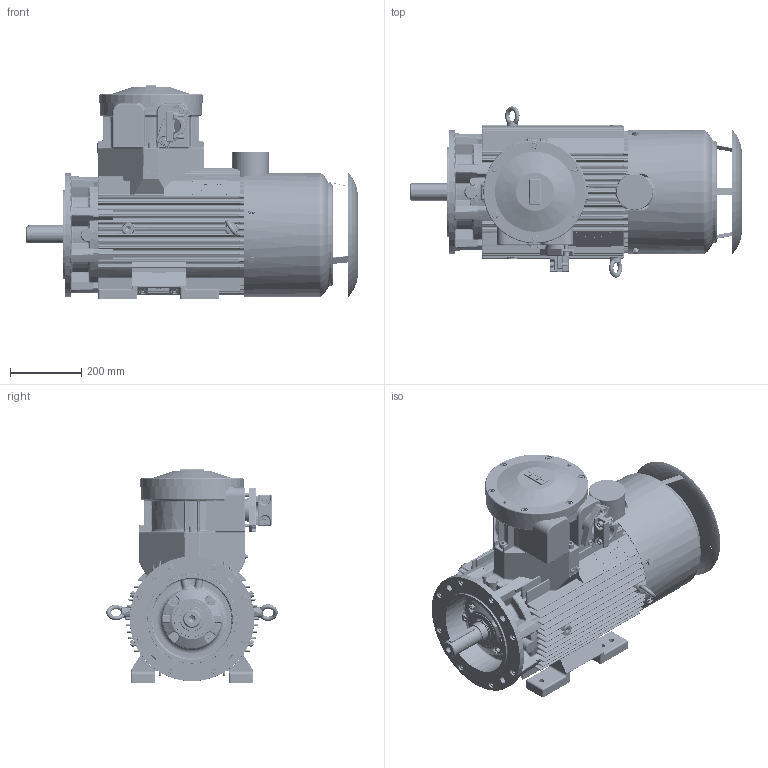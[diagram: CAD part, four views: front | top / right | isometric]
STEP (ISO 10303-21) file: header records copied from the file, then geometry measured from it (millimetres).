
FILE_DESCRIPTION(/* description */ ('Unknown'),/* implementation_level */ '2;1');
FILE_NAME(/* name */ '(E)cSTLe180M,L(2-8)-IE2,IE3',/* time_stamp */ '2021-12-14T10:49:11+01:00',/* author */ ('Unknown'),/* organization */ ('Unknown'),/* preprocessor_version */ 'ST-DEVELOPER v16.7',/* originating_system */ 'DEX',/* authorisation */ $);
FILE_SCHEMA (('AUTOMOTIVE_DESIGN {1 0 10303 214 3 1 1}'));
Products named in the file (1): (E)cSTLe180M,L(2-8)-IE2,IE3
Bounding box: 932.29 x 480.92 x 600.81 mm (x, y, z)
Volume: 45631424.7 mm3; surface area: 4942589.3 mm2
Topology: 12 solids, 61 shells, 7611 faces, 19981 edges, 12537 vertices
Faces by surface type: plane 3918, cylinder 1776, bspline 781, torus 588, cone 432, sphere 116
Full cylindrical faces by diameter (mm): 2.459 x6, 2.5 x6, 3.2 x6, 3.4 x6, 4.5 x1, 4.773 x2, 4.917 x12, 6 x4, 6.3 x1, 6.466 x4, 6.5 x2, 6.647 x10, 8 x9, 8.16 x16, 8.376 x44, 9 x4, 9.853 x14, 10 x36, 10.106 x36, 10.5 x4, 11 x8, 12 x34, 13 x8, 13.5 x14, 14.376 x2, 14.63 x4, 15 x6, 16 x12, 17 x1, 18 x22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
Entity records: 289103 total; most frequent: CARTESIAN_POINT 71345, ORIENTED_EDGE 36994, DIRECTION 34651, EDGE_CURVE 18497, VERTEX_POINT 12111, AXIS2_PLACEMENT_3D 12030, LINE 10591, VECTOR 10591
